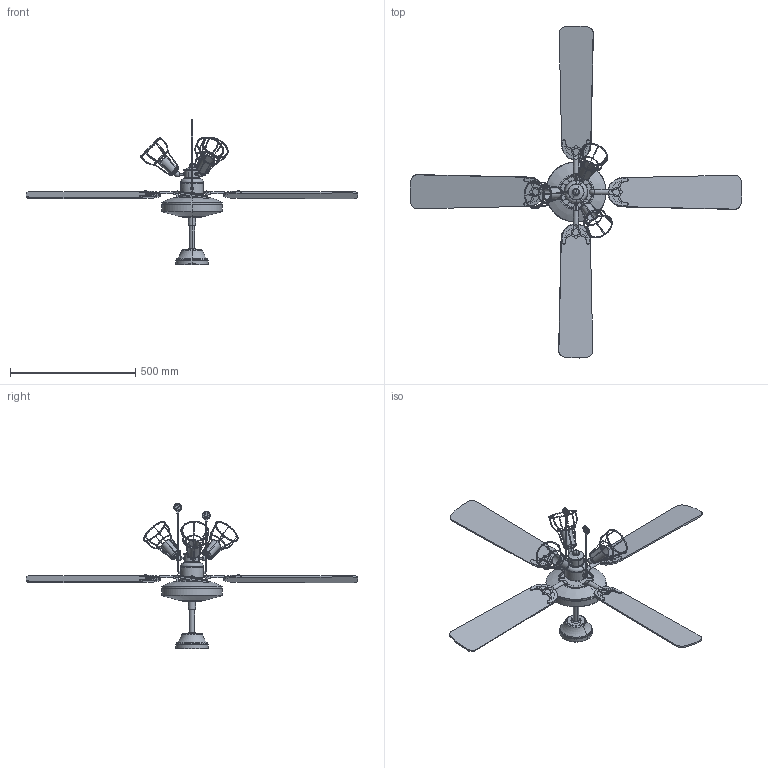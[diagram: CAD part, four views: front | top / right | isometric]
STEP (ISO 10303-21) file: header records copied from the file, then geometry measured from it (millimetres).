
FILE_DESCRIPTION(/* description */ (''),/* implementation_level */ '2;1');
FILE_NAME(/* name */ 'C:\Users\FrancoSartori\Documents\FARO\01_En Proceso\00_ALOHA YAKARTA\03_Publicación\33711-11.stp',/* time_stamp */ '2021-06-09T10:04:41+02:00',/* author */ ('FrancoSartori'),/* organization */ (''),/* preprocessor_version */ 'ST-DEVELOPER v18.1',/* originating_system */ 'AutoCAD Mechanical',/* authorisation */ '');
FILE_SCHEMA (('AUTOMOTIVE_DESIGN { 1 0 10303 214 3 1 1 }'));
Products named in the file (3): Product; 33711_ 33712_ 33713 _ - FAN-484145-Export; 3371X_LK - LT-484148-Export
Assembly tree (2 placements, depth 2):
  Product
    33711_ 33712_ 33713 _ - FAN-484145-Export
    3371X_LK - LT-484148-Export
Bounding box: 1323.47 x 1323.47 x 578.36 mm (x, y, z)
Volume: 5434333.7 mm3; surface area: 1074146.6 mm2
Topology: 39 solids, 151 shells, 1168 faces, 2883 edges, 1784 vertices
Faces by surface type: cylinder 416, plane 312, sphere 234, torus 190, cone 10, bspline 6
Entity records: 97573 total; most frequent: CARTESIAN_POINT 72310, ORIENTED_EDGE 5276, DIRECTION 4487, EDGE_CURVE 2858, AXIS2_PLACEMENT_3D 1786, VERTEX_POINT 1784, B_SPLINE_CURVE_WITH_KNOTS 1324, EDGE_LOOP 1226
